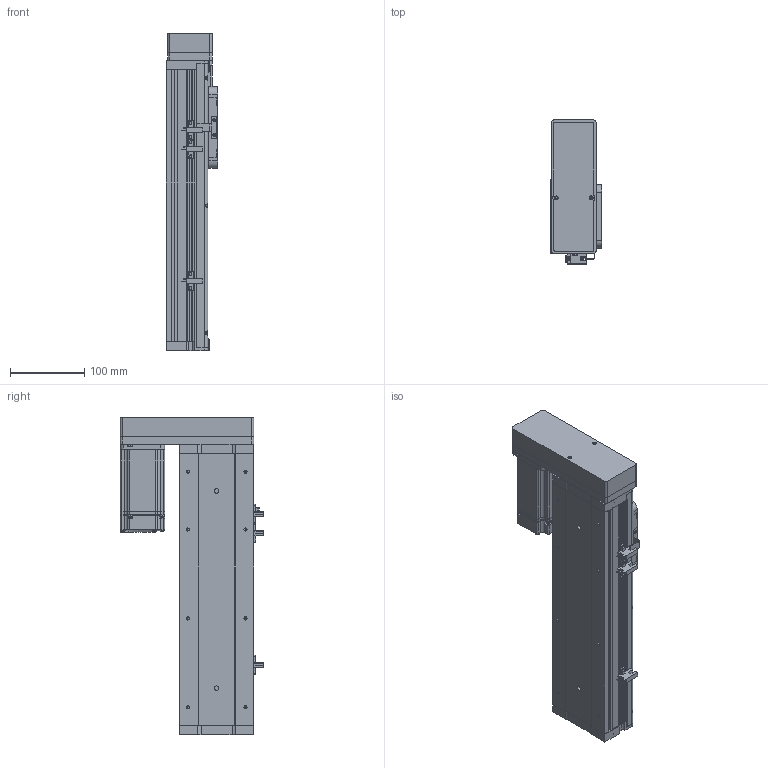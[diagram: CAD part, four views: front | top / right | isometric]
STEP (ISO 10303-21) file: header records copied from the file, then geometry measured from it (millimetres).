
FILE_DESCRIPTION (( 'STEP AP214' ), '1' );
FILE_NAME ('KSD100S-S200-ML-CR.STEP', '2019-09-02T08:00:13', ( '微软用户' ), ( '微软中国' ), 'SwSTEP 2.0', 'SolidWorks 2014', '' );
FILE_SCHEMA (( 'AUTOMOTIVE_DESIGN' ));
Length unit declared in the file: millimetre
Products named in the file (14): 100宽滚珠螺姆安装板1; 100遵裔啣揤啣; 100遵裔啣200俴最; 100遵耜啣200俴最佪裝; 100宽底板全封闭200行程丝杆; KSD100S-S200-ML-CR; MHMD042G1CA_2_03; 悵誘欶酘衵殏; 100宽马达安装板连板左右折丝杆; U倰嫖萇EEㄜSX672; 感应片100宽全封闭; 100宽马达安装板全封闭; 100宽端板全封闭; 100宽滚珠螺姆安装板1防护罩
Assembly tree (17 placements, depth 2):
  KSD100S-S200-ML-CR
    100宽底板全封闭200行程丝杆
    100遵耜啣200俴最佪裝  x2
    100遵裔啣200俴最
    100遵裔啣揤啣  x2
    100宽滚珠螺姆安装板1
    100宽滚珠螺姆安装板1防护罩
    100宽端板全封闭
    100宽马达安装板全封闭
    感应片100宽全封闭
    U倰嫖萇EEㄜSX672  x3
    100宽马达安装板连板左右折丝杆
    悵誘欶酘衵殏
    MHMD042G1CA_2_03
Bounding box: 70 x 193.7 x 428.5 mm (x, y, z)
Volume: 1005022.8 mm3; surface area: 484324.5 mm2
Topology: 16 solids, 17 shells, 1549 faces, 4310 edges, 2776 vertices
Faces by surface type: plane 699, cylinder 651, cone 181, bspline 18
Entity records: 51424 total; most frequent: CARTESIAN_POINT 7974, DIRECTION 7349, ORIENTED_EDGE 6832, EDGE_CURVE 3488, AXIS2_PLACEMENT_3D 2599, VERTEX_POINT 2314, VECTOR 2151, LINE 2151
